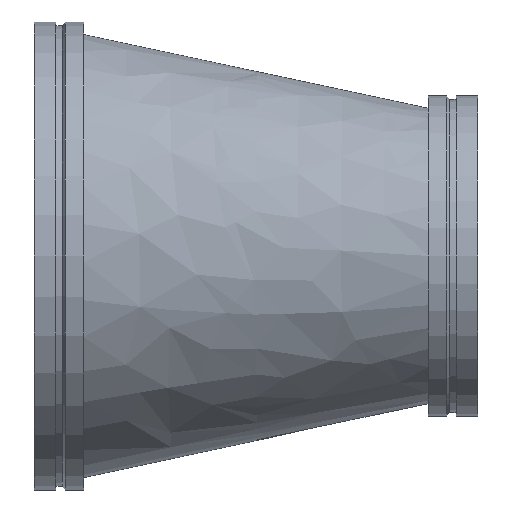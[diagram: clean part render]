
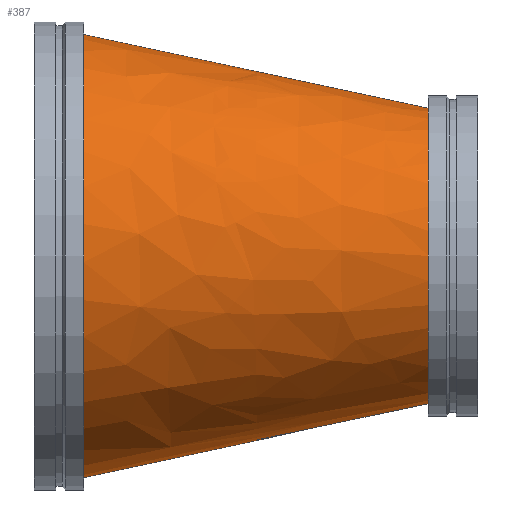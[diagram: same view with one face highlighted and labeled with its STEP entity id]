
A CAD part, front view. The second image highlights one B-rep face of the part: STEP entity #387.
In plain terms, the highlighted free-form (B-spline) face has degree [1, 2] with [2, 9] control points.
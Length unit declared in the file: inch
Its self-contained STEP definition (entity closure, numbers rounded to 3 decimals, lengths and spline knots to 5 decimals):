
#46=B_SPLINE_CURVE_WITH_KNOTS('',1,(#747,#748),.UNSPECIFIED.,.F.,.F.,(2,
2),(-1.62974,-0.00865),.UNSPECIFIED.);
#48=(
BOUNDED_SURFACE()
B_SPLINE_SURFACE(1,2,((#729,#730,#731,#732,#733,#734,#735,#736,#737),(#738,
#739,#740,#741,#742,#743,#744,#745,#746)),.UNSPECIFIED.,.F.,.T.,.F.)
B_SPLINE_SURFACE_WITH_KNOTS((2,2),(3,2,2,2,3),(-0.20526,1.76081),
(-3.14159,-1.5708,0.,1.5708,3.14159),
 .UNSPECIFIED.)
GEOMETRIC_REPRESENTATION_ITEM()
RATIONAL_B_SPLINE_SURFACE(((1.,0.707,1.,0.707,1.,
0.707,1.,0.707,1.),(1.,0.707,1.,0.707,
1.,0.707,1.,0.707,1.)))
REPRESENTATION_ITEM('')
SURFACE()
);
#98=FACE_OUTER_BOUND('',#120,.T.);
#120=EDGE_LOOP('',(#321,#322,#323,#324,#325,#326));
#129=CIRCLE('',#415,12.);
#130=CIRCLE('',#416,12.);
#153=CIRCLE('',#450,18.);
#154=CIRCLE('',#451,18.);
#166=VERTEX_POINT('',#628);
#167=VERTEX_POINT('',#629);
#190=VERTEX_POINT('',#695);
#191=VERTEX_POINT('',#696);
#203=EDGE_CURVE('',#166,#167,#129,.T.);
#204=EDGE_CURVE('',#167,#166,#130,.T.);
#235=EDGE_CURVE('',#190,#191,#153,.T.);
#236=EDGE_CURVE('',#191,#190,#154,.T.);
#243=EDGE_CURVE('',#167,#191,#46,.T.);
#321=ORIENTED_EDGE('',*,*,#203,.T.);
#322=ORIENTED_EDGE('',*,*,#243,.T.);
#323=ORIENTED_EDGE('',*,*,#236,.T.);
#324=ORIENTED_EDGE('',*,*,#235,.T.);
#325=ORIENTED_EDGE('',*,*,#243,.F.);
#326=ORIENTED_EDGE('',*,*,#204,.T.);
#387=ADVANCED_FACE('',(#98),#48,.F.);
#415=AXIS2_PLACEMENT_3D('',#630,#486,#487);
#416=AXIS2_PLACEMENT_3D('',#631,#488,#489);
#450=AXIS2_PLACEMENT_3D('',#697,#564,#565);
#451=AXIS2_PLACEMENT_3D('',#698,#566,#567);
#486=DIRECTION('center_axis',(-1.,0.,0.));
#487=DIRECTION('ref_axis',(0.,-1.,0.));
#488=DIRECTION('center_axis',(-1.,0.,0.));
#489=DIRECTION('ref_axis',(0.,-1.,0.));
#564=DIRECTION('center_axis',(1.,0.,0.));
#565=DIRECTION('ref_axis',(0.,1.,0.));
#566=DIRECTION('center_axis',(1.,0.,0.));
#567=DIRECTION('ref_axis',(0.,1.,0.));
#628=CARTESIAN_POINT('',(32.,-18.,0.));
#629=CARTESIAN_POINT('',(32.,-6.50557,11.98935));
#630=CARTESIAN_POINT('Origin',(32.,-6.,0.));
#631=CARTESIAN_POINT('Origin',(32.,-6.,0.));
#695=CARTESIAN_POINT('',(4.,18.,0.));
#696=CARTESIAN_POINT('',(4.,-0.75835,17.98402));
#697=CARTESIAN_POINT('Origin',(4.,0.,0.));
#698=CARTESIAN_POINT('Origin',(4.,0.,0.));
#729=CARTESIAN_POINT('Ctrl Pts',(0.30536,0.,
18.77502));
#730=CARTESIAN_POINT('Ctrl Pts',(-3.38928,-18.,18.77502));
#731=CARTESIAN_POINT('Ctrl Pts',(-3.38928,-18.,0.));
#732=CARTESIAN_POINT('Ctrl Pts',(-3.38928,-18.,-18.77502));
#733=CARTESIAN_POINT('Ctrl Pts',(0.30536,0.,
-18.77502));
#734=CARTESIAN_POINT('Ctrl Pts',(4.,18.,-18.77502));
#735=CARTESIAN_POINT('Ctrl Pts',(4.,18.,0.));
#736=CARTESIAN_POINT('Ctrl Pts',(4.,18.,18.77502));
#737=CARTESIAN_POINT('Ctrl Pts',(0.30536,0.,
18.77502));
#738=CARTESIAN_POINT('Ctrl Pts',(34.26394,-6.97026,11.50465));
#739=CARTESIAN_POINT('Ctrl Pts',(32.,-18.,11.50465));
#740=CARTESIAN_POINT('Ctrl Pts',(32.,-18.,0.));
#741=CARTESIAN_POINT('Ctrl Pts',(32.,-18.,-11.50465));
#742=CARTESIAN_POINT('Ctrl Pts',(34.26394,-6.97026,-11.50465));
#743=CARTESIAN_POINT('Ctrl Pts',(36.52788,4.05948,-11.50465));
#744=CARTESIAN_POINT('Ctrl Pts',(36.52788,4.05948,0.));
#745=CARTESIAN_POINT('Ctrl Pts',(36.52788,4.05948,11.50465));
#746=CARTESIAN_POINT('Ctrl Pts',(34.26394,-6.97026,11.50465));
#747=CARTESIAN_POINT('Ctrl Pts',(32.,-6.50557,11.98935));
#748=CARTESIAN_POINT('Ctrl Pts',(4.,-0.75835,17.98402));
